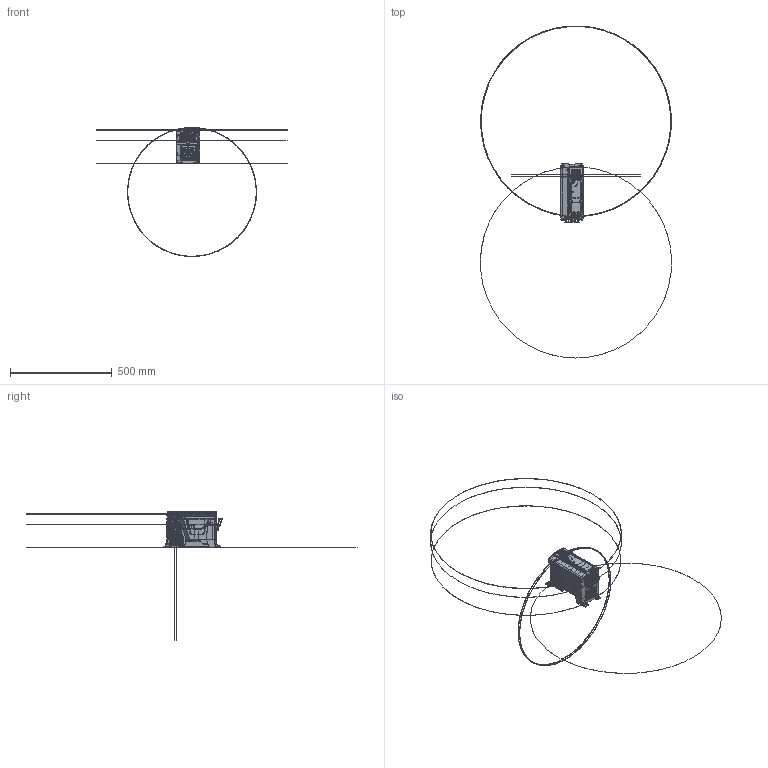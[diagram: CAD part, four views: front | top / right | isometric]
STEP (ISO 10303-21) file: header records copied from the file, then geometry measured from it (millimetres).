
FILE_DESCRIPTION((''),'2;1');
FILE_NAME('UNIM-04-M100-SIMPLE','2013-08-09T',('owenrh01'),(''),'PRO/ENGINEER BY PARAMETRIC TECHNOLOGY CORPORATION, 2011490','PRO/ENGINEER BY PARAMETRIC TECHNOLOGY CORPORATION, 2011490','');
FILE_SCHEMA(('CONFIG_CONTROL_DESIGN'));
Products named in the file (1): UNIM-04-M100-SIMPLE
Bounding box: 940.03 x 1632.68 x 634.74 mm (x, y, z)
Surface area: 517846.5 mm2 (no closed solid volume)
Topology: 0 solids, 0 shells, 1944 faces, 17454 edges, 17377 vertices
Faces by surface type: bspline 1856, torus 79, sphere 9
Entity records: 341442 total; most frequent: CARTESIAN_POINT 189265, DIRECTION 21540, TRIMMED_CURVE 19823, VECTOR 18282, LINE 18282, DEFINITIONAL_REPRESENTATION 17291, PCURVE 17291, COMPOSITE_CURVE_SEGMENT 17291
